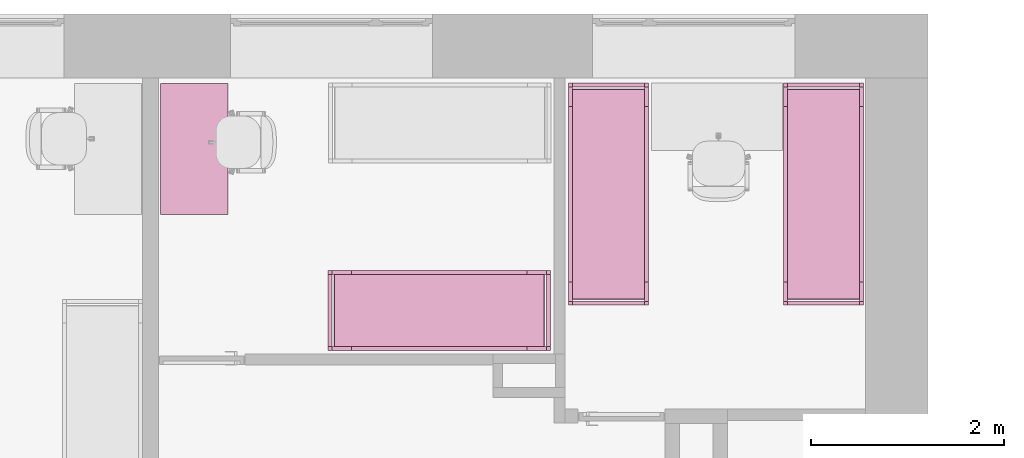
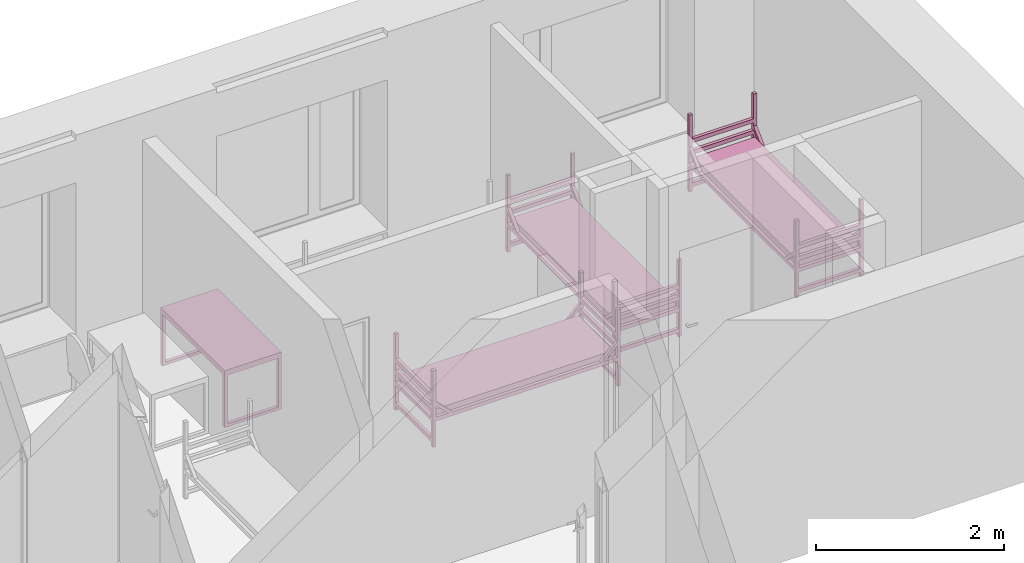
# One storey, part 44 of 46: 4 furnishings.
"""IFC2X3 building model written with IfcOpenShell, lengths in millimetres."""

from ifc_helpers import new_model, entity, si_unit, converted_unit, derived_unit, direction, frame, frame_2d, origin, place, context, subcontext, project, spatial, polyline, circle_curve, parameter, trimmed, segment, composite_curve, rectangle, outline, extrude, faceted_brep, source, transform, mapped, material, material_list, type_object, type_shapes, element, save


model = new_model("IFC2X3")

# Units and contexts
model_context = context("Model", 3, precision=0.01, world=origin(), true_north=direction((6.12303176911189e-17, 1.0)))
body_context = subcontext(model_context, "Body", "Model", "MODEL_VIEW")
ifc_project = project(units=[si_unit("LENGTHUNIT", "METRE", prefix="MILLI"), si_unit("AREAUNIT", "SQUARE_METRE"), si_unit("VOLUMEUNIT", "CUBIC_METRE"), converted_unit("PLANEANGLEUNIT", "DEGREE", entity("IfcRatioMeasure", 0.0174532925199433), si_unit("PLANEANGLEUNIT", "RADIAN"), dimensions=[0, 0, 0, 0, 0, 0, 0]), si_unit("MASSUNIT", "GRAM", prefix="KILO"), derived_unit("MASSDENSITYUNIT", [(si_unit("MASSUNIT", "GRAM", prefix="KILO"), 1), (si_unit("LENGTHUNIT", "METRE"), -3)]), si_unit("TIMEUNIT", "SECOND"), si_unit("FREQUENCYUNIT", "HERTZ"), si_unit("THERMODYNAMICTEMPERATUREUNIT", "DEGREE_CELSIUS"), derived_unit("THERMALTRANSMITTANCEUNIT", [(si_unit("MASSUNIT", "GRAM", prefix="KILO"), 1), (si_unit("THERMODYNAMICTEMPERATUREUNIT", "KELVIN"), -1), (si_unit("TIMEUNIT", "SECOND"), -3)]), derived_unit("VOLUMETRICFLOWRATEUNIT", [(si_unit("LENGTHUNIT", "METRE"), 3), (si_unit("TIMEUNIT", "SECOND"), -1)]), si_unit("ELECTRICCURRENTUNIT", "AMPERE"), si_unit("ELECTRICVOLTAGEUNIT", "VOLT"), si_unit("POWERUNIT", "WATT"), si_unit("FORCEUNIT", "NEWTON", prefix="KILO"), si_unit("ILLUMINANCEUNIT", "LUX"), si_unit("LUMINOUSFLUXUNIT", "LUMEN"), si_unit("LUMINOUSINTENSITYUNIT", "CANDELA"), derived_unit("USERDEFINED", [(si_unit("MASSUNIT", "GRAM", prefix="KILO"), -1), (si_unit("LENGTHUNIT", "METRE"), -2), (si_unit("TIMEUNIT", "SECOND"), 3), (si_unit("LUMINOUSFLUXUNIT", "LUMEN"), 1)]), derived_unit("LINEARVELOCITYUNIT", [(si_unit("LENGTHUNIT", "METRE"), 1), (si_unit("TIMEUNIT", "SECOND"), -1)]), si_unit("PRESSUREUNIT", "PASCAL"), derived_unit("USERDEFINED", [(si_unit("LENGTHUNIT", "METRE"), -2), (si_unit("MASSUNIT", "GRAM", prefix="KILO"), 1), (si_unit("TIMEUNIT", "SECOND"), -2)]), derived_unit("LINEARFORCEUNIT", [(si_unit("MASSUNIT", "GRAM", prefix="KILO"), 1), (si_unit("LENGTHUNIT", "METRE"), 1), (si_unit("TIMEUNIT", "SECOND"), -2), (si_unit("LENGTHUNIT", "METRE"), -1)]), derived_unit("PLANARFORCEUNIT", [(si_unit("MASSUNIT", "GRAM", prefix="KILO"), 1), (si_unit("LENGTHUNIT", "METRE"), 1), (si_unit("TIMEUNIT", "SECOND"), -2), (si_unit("LENGTHUNIT", "METRE"), -2)])], contexts=[model_context])

# Site, building, storey, space
site_placement = place(None, origin())
site = spatial("IfcSite", under=ifc_project, at=site_placement, Name="Default", CompositionType="ELEMENT")
building_placement = place(site_placement, origin())
building = spatial("IfcBuilding", under=site, at=building_placement, Name="SMA ARH", CompositionType="ELEMENT")
storey_placement = place(building_placement, origin())
storey = spatial("IfcBuildingStorey", under=building, at=storey_placement, Name="1 Korrus", CompositionType="ELEMENT", Elevation=0.0)
space_1_placement = place(storey_placement, origin())
space_1 = spatial("IfcSpace", under=storey, at=space_1_placement, Name="1-31", CompositionType="ELEMENT", InteriorOrExteriorSpace="INTERNAL")

# Furnishing
ifc_material_1 = material(Name="Madrats")
furniture_type_1 = type_object("IfcFurnitureType", Name="Kasarmu voodi ühekordne 2308x830:Kasarmu voodi ühekordne 2308x830", material=ifc_material_1)
shared_shape_1 = source(origin(), body_context, "Body", "SweptSolid", [
    extrude(rectangle(XDim=39.9999999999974, YDim=750.000000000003, at=frame_2d((-1.35003119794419e-13, -2.8421709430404e-14), x_axis=(1.0, 0.0))), frame((1.68638457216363, -1226.7969571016, 55.0), z_axis=(0.0, 0.0, 1.0), x_axis=(0.0, -1.0, 0.0)), (0.0, 0.0, 1.0), 49.9999999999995),
    extrude(rectangle(XDim=39.9999999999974, YDim=750.000000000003, at=frame_2d((-1.35003119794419e-13, -2.8421709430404e-14), x_axis=(1.0, 0.0))), frame((1.68638457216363, -1226.7969571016, 325.0), z_axis=(0.0, 0.0, 1.0), x_axis=(0.0, -1.0, 0.0)), (0.0, 0.0, 1.0), 49.9999999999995),
    extrude(rectangle(XDim=39.9999999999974, YDim=750.000000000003, at=frame_2d((-1.35003119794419e-13, -2.8421709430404e-14), x_axis=(1.0, 0.0))), frame((1.68638457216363, -1226.7969571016, 475.0), z_axis=(0.0, 0.0, 1.0), x_axis=(0.0, -1.0, 0.0)), (0.0, 0.0, 1.0), 49.9999999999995),
    extrude(rectangle(XDim=39.9999999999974, YDim=750.000000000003, at=frame_2d((-1.35003119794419e-13, -2.8421709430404e-14), x_axis=(1.0, 0.0))), frame((1.68638457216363, -1226.7969571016, 625.0), z_axis=(0.0, 0.0, 1.0), x_axis=(0.0, -1.0, 0.0)), (0.0, 0.0, 1.0), 50.0000000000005),
    extrude(rectangle(XDim=39.9999999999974, YDim=750.000000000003, at=frame_2d((1.35003119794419e-13, -2.8421709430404e-14), x_axis=(1.0, 0.0))), frame((1.68638457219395, 1041.2030428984, 55.0), z_axis=(0.0, 0.0, 1.0), x_axis=(0.0, -1.0, 0.0)), (0.0, 0.0, 1.0), 50.0000000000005),
    extrude(rectangle(XDim=39.9999999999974, YDim=750.000000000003, at=frame_2d((1.35003119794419e-13, -2.8421709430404e-14), x_axis=(1.0, 0.0))), frame((1.68638457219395, 1041.2030428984, 325.0), z_axis=(0.0, 0.0, 1.0), x_axis=(0.0, -1.0, 0.0)), (0.0, 0.0, 1.0), 50.0000000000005),
    extrude(rectangle(XDim=39.9999999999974, YDim=750.000000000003, at=frame_2d((1.35003119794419e-13, -2.8421709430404e-14), x_axis=(1.0, 0.0))), frame((1.68638457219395, 1041.2030428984, 475.0), z_axis=(0.0, 0.0, 1.0), x_axis=(0.0, -1.0, 0.0)), (0.0, 0.0, 1.0), 50.0000000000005),
    extrude(rectangle(XDim=39.9999999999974, YDim=750.000000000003, at=frame_2d((1.35003119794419e-13, -2.8421709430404e-14), x_axis=(1.0, 0.0))), frame((1.68638457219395, 1041.2030428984, 625.0), z_axis=(0.0, 0.0, 1.0), x_axis=(0.0, -1.0, 0.0)), (0.0, 0.0, 1.0), 49.9999999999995),
    extrude(outline(composite_curve([segment(trimmed(circle_curve(frame_2d((1085.0, -40.0), x_axis=(1.0, 0.0)), 10.0), [parameter(270.0)], [parameter(0.0)], True, "PARAMETER"), True, "CONTINUOUS"), segment(polyline([(1095.0, -40.0), (1095.0, 40.0)]), True, "CONTINUOUS"), segment(trimmed(circle_curve(frame_2d((1085.0, 40.0), x_axis=(1.0, 0.0)), 10.0), [parameter(0.0)], [parameter(90.0000000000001)], True, "PARAMETER"), True, "CONTINUOUS"), segment(polyline([(1085.0, 50.0), (-1085.0, 50.0)]), True, "CONTINUOUS"), segment(trimmed(circle_curve(frame_2d((-1085.0, 40.0), x_axis=(1.0, 0.0)), 10.0), [parameter(90.0000000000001)], [parameter(180.0)], True, "PARAMETER"), True, "CONTINUOUS"), segment(polyline([(-1095.0, 40.0), (-1095.0, -40.0)]), True, "CONTINUOUS"), segment(trimmed(circle_curve(frame_2d((-1085.0, -40.0), x_axis=(1.0, 0.0)), 10.0), [parameter(180.0)], [parameter(270.0)], True, "PARAMETER"), True, "CONTINUOUS"), segment(polyline([(-1085.0, -50.0), (1085.0, -50.0)]), True, "CONTINUOUS")], self_intersect=False)), frame((-373.313615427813, -92.7969571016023, 405.0), z_axis=(1.0, 0.0, 0.0), x_axis=(0.0, -1.0, 0.0)), (0.0, 0.0, 1.0), 750.000000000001),
    extrude(outline(polyline([(-1114.0, -100.0), (1114.0, -100.0), (1114.0, -50.0), (961.59199141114, -50.0), (1114.0, 100.0), (1114.0, 150.0), (910.789321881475, -50.0), (-910.789321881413, -50.0), (-1114.0, 150.0), (-1114.0, 100.0), (-961.591991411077, -50.0), (-1114.0, -50.0), (-1114.0, -100.0)])), frame((-413.313615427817, -92.7969571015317, 430.0), z_axis=(1.0, 0.0, 0.0), x_axis=(0.0, 1.0, 0.0)), (0.0, 0.0, 1.0), 39.9999999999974),
    extrude(outline(polyline([(-1114.0, -100.0), (1114.0, -100.0), (1114.0, -50.0), (961.591991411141, -50.0), (1114.0, 100.0), (1114.0, 150.0), (910.789321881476, -50.0), (-910.789321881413, -50.0), (-1114.0, 150.0), (-1114.0, 100.0), (-961.591991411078, -50.0), (-1114.0, -50.0), (-1114.0, -100.0)])), frame((376.686384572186, -92.796957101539, 430.0), z_axis=(1.0, 0.0, 0.0), x_axis=(0.0, 1.0, 0.0)), (0.0, 0.0, 1.0), 39.9999999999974),
    extrude(rectangle(XDim=39.9999999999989, YDim=39.9999999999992, at=frame_2d((-6.75015598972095e-14, 0.0), x_axis=(1.0, 0.0))), frame((396.686384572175, -1226.79695710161, 0.0), z_axis=(0.0, 0.0, 1.0), x_axis=(0.0, 1.0, 0.0)), (0.0, 0.0, 1.0), 995.0),
    extrude(rectangle(XDim=39.9999999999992, YDim=39.9999999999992, at=frame_2d((-1.35003119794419e-13, 0.0), x_axis=(1.0, 0.0))), frame((396.686384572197, 1041.20304289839, 0.0), z_axis=(0.0, 0.0, 1.0), x_axis=(0.0, 1.0, 0.0)), (0.0, 0.0, 1.0), 995.0),
    extrude(rectangle(XDim=40.0000000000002, YDim=39.9999999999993, at=frame_2d((-1.35003119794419e-13, 0.0), x_axis=(1.0, 0.0))), frame((-393.313615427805, 1041.2030428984, 0.0), z_axis=(0.0, 0.0, 1.0), x_axis=(0.0, 1.0, 0.0)), (0.0, 0.0, 1.0), 995.0),
    extrude(rectangle(XDim=39.9999999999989, YDim=39.9999999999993, at=frame_2d((-6.75015598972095e-14, 0.0), x_axis=(1.0, 0.0))), frame((-393.313615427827, -1226.7969571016, 0.0), z_axis=(0.0, 0.0, 1.0), x_axis=(0.0, 1.0, 0.0)), (0.0, 0.0, 1.0), 995.0),
])
type_shapes(furniture_type_1, [shared_shape_1])
furnishing_1_placement = place(space_1_placement, frame((33794.2030428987, 10081.3136154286, 0.0), z_axis=(0.0, 0.0, 1.0), x_axis=(0.0, 1.0, 0.0)))
element("IfcFurnishingElement", 1, at=furnishing_1_placement, inside=space_1, type_object=furniture_type_1, material=ifc_material_1, Name="Kasarmu voodi ühekordne 2308x830:Kasarmu voodi ühekordne 2308x830", ObjectType="Kasarmu voodi ühekordne 2308x830:Kasarmu voodi ühekordne 2308x830", context=body_context, shape_type="MappedRepresentation", body=[
    mapped(shared_shape_1, transform((0.0, 0.0, 0.0), scale=1.0)),
])

# Space
space_2_placement = place(storey_placement, origin())
space_2 = spatial("IfcSpace", under=storey, at=space_2_placement, Name="1-33", CompositionType="ELEMENT", InteriorOrExteriorSpace="INTERNAL")

# Furnishings
for number, where, z_axis, x_axis, name in (
    (2, (35647.2939213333, 11199.8894274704, 0.0), (0.0, 0.0, 1.0), (-1.0, 0.0, 0.0), "Kasarmu voodi ühekordne 2308x830:Kasarmu voodi ühekordne 2308x830"),
    (3, (37880.0, 11199.8894274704, 0.0), (0.0, 0.0, 1.0), (-1.0, 0.0, 0.0), "Kasarmu voodi ühekordne 2308x830:Kasarmu voodi ühekordne 2308x830"),
):
    element("IfcFurnishingElement", number, at=place(space_2_placement, frame(where, z_axis=z_axis, x_axis=x_axis)), inside=space_2, type_object=furniture_type_1, material=ifc_material_1, Name=name, ObjectType="Kasarmu voodi ühekordne 2308x830:Kasarmu voodi ühekordne 2308x830", context=body_context, shape_type="MappedRepresentation", body=[
        mapped(shared_shape_1, transform((0.0, 0.0, 0.0), scale=1.0)),
    ])
ifc_material_2 = material(Name="<Unnamed>")
ifc_material_list = material_list([ifc_material_2, ifc_material_2])
furniture_type_2 = type_object("IfcFurnitureType", Name="kirjutuslaud 1360x700mm:kirjutuslaud 1360x700mm", material=ifc_material_list)
shared_shape_2 = source(origin(), body_context, "Body", "Brep", [
    faceted_brep([(680.0, -350.0, 720.0), (680.0, 350.0, 720.0), (680.0, 350.0, 750.0), (680.0, -350.0, 750.0), (-680.0, -350.0, 720.0), (-680.0, -350.0, 750.0), (-680.0, 350.0, 750.0), (-680.0, 350.0, 720.0)], [[[0, 1, 2, 3]], [[4, 5, 6, 7]], [[1, 0, 4, 7]], [[2, 1, 7, 6]], [[3, 2, 6, 5]], [[0, 3, 5, 4]]]),
    faceted_brep([(-640.0, -310.0, 680.0), (-640.0, 310.0, 680.0), (-640.0, 310.0, 720.0), (-640.0, -310.0, 720.0), (-680.0, -350.0, 720.0), (-680.0, 350.0, 720.0), (-680.0, 350.0, 10.0), (-680.0, -350.0, 10.0), (-680.0, 310.0, 680.0), (-680.0, -310.0, 680.0), (-680.0, -310.0, 50.0), (-680.0, 310.0, 50.0), (-640.0, -350.0, 10.0), (-640.0, -350.0, 680.0), (640.0, -350.0, 680.0), (640.0, -350.0, 10.0), (680.0, -350.0, 10.0), (680.0, -350.0, 720.0), (-640.0, 350.0, 10.0), (680.0, 350.0, 720.0), (680.0, 350.0, 10.0), (640.0, 350.0, 10.0), (640.0, 350.0, 680.0), (-640.0, 350.0, 680.0), (640.0, 310.0, 720.0), (640.0, -310.0, 720.0), (-640.0, 310.0, 50.0), (-640.0, -310.0, 50.0), (640.0, -310.0, 680.0), (640.0, 310.0, 680.0), (680.0, 310.0, 680.0), (680.0, 310.0, 50.0), (680.0, -310.0, 50.0), (680.0, -310.0, 680.0), (640.0, -310.0, 50.0), (640.0, 310.0, 50.0)], [[[0, 1, 2, 3]], [[4, 5, 6, 7], [8, 9, 10, 11]], [[4, 7, 12, 13, 14, 15, 16, 17]], [[18, 12, 7, 6]], [[6, 5, 19, 20, 21, 22, 23, 18]], [[19, 5, 4, 17], [2, 24, 25, 3]], [[26, 1, 8, 11]], [[27, 26, 11, 10]], [[0, 27, 10, 9]], [[1, 0, 9, 8]], [[14, 13, 0, 28]], [[24, 2, 1, 29]], [[3, 25, 28, 0]], [[17, 16, 20, 19], [30, 31, 32, 33]], [[21, 15, 14, 28, 34, 35, 29, 22]], [[20, 16, 15, 21]], [[31, 30, 29, 35]], [[32, 31, 35, 34]], [[33, 32, 34, 28]], [[30, 33, 28, 29]], [[29, 28, 25, 24]], [[29, 1, 23, 22]], [[12, 18, 23, 1, 26, 27, 0, 13]]]),
    faceted_brep([(-663.729456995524, -270.466136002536, 0.0), (-659.847171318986, -269.955023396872, 0.0), (-655.964885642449, -270.466136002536, 0.0), (-652.347171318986, -271.964642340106, 0.0), (-649.240569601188, -274.348421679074, 0.0), (-646.85679026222, -277.455023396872, 0.0), (-645.35828392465, -281.072737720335, 0.0), (-644.847171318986, -284.955023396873, 0.0), (-645.35828392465, -288.83730907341, 0.0), (-646.85679026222, -292.455023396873, 0.0), (-649.240569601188, -295.561625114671, 0.0), (-652.347171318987, -297.945404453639, 0.0), (-655.964885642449, -299.443910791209, 0.0), (-659.847171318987, -299.955023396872, 0.0), (-663.729456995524, -299.443910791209, 0.0), (-667.347171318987, -297.945404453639, 0.0), (-670.453773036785, -295.561625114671, 0.0), (-672.837552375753, -292.455023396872, 0.0), (-674.336058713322, -288.83730907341, 0.0), (-674.847171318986, -284.955023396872, 0.0), (-674.336058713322, -281.072737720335, 0.0), (-672.837552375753, -277.455023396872, 0.0), (-670.453773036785, -274.348421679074, 0.0), (-667.347171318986, -271.964642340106, 0.0), (-655.964885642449, -299.443910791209, 10.0), (-652.347171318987, -297.945404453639, 10.0), (-649.240569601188, -295.561625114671, 10.0), (-646.85679026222, -292.455023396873, 10.0), (-645.35828392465, -288.83730907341, 10.0), (-644.847171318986, -284.955023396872, 10.0), (-645.35828392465, -281.072737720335, 10.0), (-646.85679026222, -277.455023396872, 10.0), (-649.240569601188, -274.348421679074, 10.0), (-652.347171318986, -271.964642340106, 10.0), (-655.964885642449, -270.466136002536, 10.0), (-659.847171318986, -269.955023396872, 10.0), (-663.729456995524, -270.466136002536, 10.0), (-667.347171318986, -271.964642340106, 10.0), (-670.453773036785, -274.348421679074, 10.0), (-672.837552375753, -277.455023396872, 10.0), (-674.336058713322, -281.072737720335, 10.0), (-674.847171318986, -284.955023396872, 10.0), (-674.336058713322, -288.83730907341, 10.0), (-672.837552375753, -292.455023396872, 10.0), (-670.453773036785, -295.561625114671, 10.0), (-667.347171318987, -297.945404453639, 10.0), (-663.729456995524, -299.443910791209, 10.0), (-659.847171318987, -299.955023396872, 10.0)], [[[0, 1, 2, 3, 4, 5, 6, 7, 8, 9, 10, 11, 12, 13, 14, 15, 16, 17, 18, 19, 20, 21, 22, 23]], [[24, 25, 26, 27, 28, 29, 30, 31, 32, 33, 34, 35, 36, 37, 38, 39, 40, 41, 42, 43, 44, 45, 46, 47]], [[18, 42, 41, 19]], [[17, 43, 42, 18]], [[45, 44, 16, 15]], [[17, 16, 44, 43]], [[46, 45, 15, 14]], [[47, 46, 14, 13]], [[12, 24, 47, 13]], [[11, 25, 24, 12]], [[27, 26, 10, 9]], [[11, 10, 26, 25]], [[28, 27, 9, 8]], [[29, 28, 8, 7]], [[6, 30, 29, 7]], [[5, 31, 30, 6]], [[33, 32, 4, 3]], [[5, 4, 32, 31]], [[34, 33, 3, 2]], [[35, 34, 2, 1]], [[0, 36, 35, 1]], [[23, 37, 36, 0]], [[39, 38, 22, 21]], [[23, 22, 38, 37]], [[40, 39, 21, 20]], [[41, 40, 20, 19]]]),
    faceted_brep([(-655.964885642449, 270.466136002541, 10.0), (-652.347171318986, 271.964642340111, 10.0), (-649.240569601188, 274.348421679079, 10.0), (-646.85679026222, 277.455023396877, 10.0), (-645.35828392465, 281.07273772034, 10.0), (-644.847171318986, 284.955023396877, 10.0), (-645.35828392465, 288.837309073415, 10.0), (-646.85679026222, 292.455023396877, 10.0), (-649.240569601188, 295.561625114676, 10.0), (-652.347171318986, 297.945404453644, 10.0), (-655.964885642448, 299.443910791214, 10.0), (-659.847171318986, 299.955023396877, 10.0), (-663.729456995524, 299.443910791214, 10.0), (-667.347171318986, 297.945404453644, 10.0), (-670.453773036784, 295.561625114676, 10.0), (-672.837552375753, 292.455023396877, 10.0), (-674.336058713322, 288.837309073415, 10.0), (-674.847171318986, 284.955023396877, 10.0), (-674.336058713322, 281.07273772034, 10.0), (-672.837552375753, 277.455023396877, 10.0), (-670.453773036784, 274.348421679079, 10.0), (-667.347171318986, 271.964642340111, 10.0), (-663.729456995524, 270.466136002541, 10.0), (-659.847171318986, 269.955023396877, 10.0), (-655.964885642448, 299.443910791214, 0.0), (-652.347171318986, 297.945404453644, 0.0), (-649.240569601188, 295.561625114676, 0.0), (-646.85679026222, 292.455023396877, 0.0), (-645.35828392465, 288.837309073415, 0.0), (-644.847171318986, 284.955023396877, 0.0), (-645.35828392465, 281.07273772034, 0.0), (-646.85679026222, 277.455023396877, 0.0), (-649.240569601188, 274.348421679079, 0.0), (-652.347171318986, 271.964642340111, 0.0), (-655.964885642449, 270.466136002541, 0.0), (-659.847171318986, 269.955023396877, 0.0), (-663.729456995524, 270.466136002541, 0.0), (-667.347171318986, 271.964642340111, 0.0), (-670.453773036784, 274.348421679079, 0.0), (-672.837552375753, 277.455023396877, 0.0), (-674.336058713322, 281.07273772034, 0.0), (-674.847171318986, 284.955023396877, 0.0), (-674.336058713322, 288.837309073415, 0.0), (-672.837552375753, 292.455023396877, 0.0), (-670.453773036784, 295.561625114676, 0.0), (-667.347171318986, 297.945404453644, 0.0), (-663.729456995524, 299.443910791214, 0.0), (-659.847171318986, 299.955023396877, 0.0)], [[[0, 1, 2, 3, 4, 5, 6, 7, 8, 9, 10, 11, 12, 13, 14, 15, 16, 17, 18, 19, 20, 21, 22, 23]], [[24, 25, 26, 27, 28, 29, 30, 31, 32, 33, 34, 35, 36, 37, 38, 39, 40, 41, 42, 43, 44, 45, 46, 47]], [[40, 18, 17, 41]], [[39, 19, 18, 40]], [[21, 20, 38, 37]], [[39, 38, 20, 19]], [[22, 21, 37, 36]], [[23, 22, 36, 35]], [[34, 0, 23, 35]], [[33, 1, 0, 34]], [[3, 2, 32, 31]], [[33, 32, 2, 1]], [[4, 3, 31, 30]], [[5, 4, 30, 29]], [[28, 6, 5, 29]], [[27, 7, 6, 28]], [[9, 8, 26, 25]], [[27, 26, 8, 7]], [[10, 9, 25, 24]], [[11, 10, 24, 47]], [[46, 12, 11, 47]], [[45, 13, 12, 46]], [[15, 14, 44, 43]], [[45, 44, 14, 13]], [[16, 15, 43, 42]], [[17, 16, 42, 41]]]),
    faceted_brep([(656.270543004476, -270.466136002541, 0.0), (660.152828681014, -269.955023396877, 0.0), (664.035114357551, -270.466136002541, 0.0), (667.652828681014, -271.96464234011, 0.0), (670.759430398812, -274.348421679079, 0.0), (673.14320973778, -277.455023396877, 0.0), (674.64171607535, -281.072737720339, 0.0), (675.152828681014, -284.955023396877, 0.0), (674.64171607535, -288.837309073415, 0.0), (673.14320973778, -292.455023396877, 0.0), (670.759430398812, -295.561625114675, 0.0), (667.652828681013, -297.945404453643, 0.0), (664.035114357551, -299.443910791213, 0.0), (660.152828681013, -299.955023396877, 0.0), (656.270543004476, -299.443910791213, 0.0), (652.652828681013, -297.945404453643, 0.0), (649.546226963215, -295.561625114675, 0.0), (647.162447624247, -292.455023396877, 0.0), (645.663941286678, -288.837309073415, 0.0), (645.152828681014, -284.955023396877, 0.0), (645.663941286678, -281.072737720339, 0.0), (647.162447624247, -277.455023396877, 0.0), (649.546226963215, -274.348421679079, 0.0), (652.652828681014, -271.96464234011, 0.0), (664.035114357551, -299.443910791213, 10.0), (667.652828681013, -297.945404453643, 10.0), (670.759430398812, -295.561625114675, 10.0), (673.14320973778, -292.455023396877, 10.0), (674.64171607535, -288.837309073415, 10.0), (675.152828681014, -284.955023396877, 10.0), (674.64171607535, -281.072737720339, 10.0), (673.14320973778, -277.455023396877, 10.0), (670.759430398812, -274.348421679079, 10.0), (667.652828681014, -271.96464234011, 10.0), (664.035114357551, -270.466136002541, 10.0), (660.152828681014, -269.955023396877, 10.0), (656.270543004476, -270.466136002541, 10.0), (652.652828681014, -271.96464234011, 10.0), (649.546226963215, -274.348421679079, 10.0), (647.162447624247, -277.455023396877, 10.0), (645.663941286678, -281.072737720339, 10.0), (645.152828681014, -284.955023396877, 10.0), (645.663941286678, -288.837309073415, 10.0), (647.162447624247, -292.455023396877, 10.0), (649.546226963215, -295.561625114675, 10.0), (652.652828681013, -297.945404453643, 10.0), (656.270543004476, -299.443910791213, 10.0), (660.152828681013, -299.955023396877, 10.0)], [[[0, 1, 2, 3, 4, 5, 6, 7, 8, 9, 10, 11, 12, 13, 14, 15, 16, 17, 18, 19, 20, 21, 22, 23]], [[24, 25, 26, 27, 28, 29, 30, 31, 32, 33, 34, 35, 36, 37, 38, 39, 40, 41, 42, 43, 44, 45, 46, 47]], [[18, 42, 41, 19]], [[17, 43, 42, 18]], [[45, 44, 16, 15]], [[17, 16, 44, 43]], [[46, 45, 15, 14]], [[47, 46, 14, 13]], [[12, 24, 47, 13]], [[11, 25, 24, 12]], [[27, 26, 10, 9]], [[11, 10, 26, 25]], [[28, 27, 9, 8]], [[29, 28, 8, 7]], [[6, 30, 29, 7]], [[5, 31, 30, 6]], [[33, 32, 4, 3]], [[5, 4, 32, 31]], [[34, 33, 3, 2]], [[35, 34, 2, 1]], [[0, 36, 35, 1]], [[23, 37, 36, 0]], [[39, 38, 22, 21]], [[23, 22, 38, 37]], [[40, 39, 21, 20]], [[41, 40, 20, 19]]]),
    faceted_brep([(664.035114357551, 270.466136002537, 10.0), (667.652828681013, 271.964642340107, 10.0), (670.759430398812, 274.348421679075, 10.0), (673.14320973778, 277.455023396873, 10.0), (674.64171607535, 281.072737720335, 10.0), (675.152828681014, 284.955023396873, 10.0), (674.64171607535, 288.837309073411, 10.0), (673.14320973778, 292.455023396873, 10.0), (670.759430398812, 295.561625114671, 10.0), (667.652828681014, 297.94540445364, 10.0), (664.035114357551, 299.443910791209, 10.0), (660.152828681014, 299.955023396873, 10.0), (656.270543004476, 299.443910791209, 10.0), (652.652828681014, 297.94540445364, 10.0), (649.546226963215, 295.561625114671, 10.0), (647.162447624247, 292.455023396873, 10.0), (645.663941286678, 288.837309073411, 10.0), (645.152828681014, 284.955023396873, 10.0), (645.663941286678, 281.072737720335, 10.0), (647.162447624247, 277.455023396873, 10.0), (649.546226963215, 274.348421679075, 10.0), (652.652828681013, 271.964642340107, 10.0), (656.270543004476, 270.466136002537, 10.0), (660.152828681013, 269.955023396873, 10.0), (664.035114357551, 299.443910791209, 0.0), (667.652828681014, 297.94540445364, 0.0), (670.759430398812, 295.561625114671, 0.0), (673.14320973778, 292.455023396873, 0.0), (674.64171607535, 288.837309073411, 0.0), (675.152828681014, 284.955023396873, 0.0), (674.64171607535, 281.072737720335, 0.0), (673.14320973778, 277.455023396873, 0.0), (670.759430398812, 274.348421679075, 0.0), (667.652828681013, 271.964642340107, 0.0), (664.035114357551, 270.466136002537, 0.0), (660.152828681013, 269.955023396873, 0.0), (656.270543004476, 270.466136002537, 0.0), (652.652828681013, 271.964642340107, 0.0), (649.546226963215, 274.348421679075, 0.0), (647.162447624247, 277.455023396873, 0.0), (645.663941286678, 281.072737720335, 0.0), (645.152828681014, 284.955023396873, 0.0), (645.663941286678, 288.837309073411, 0.0), (647.162447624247, 292.455023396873, 0.0), (649.546226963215, 295.561625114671, 0.0), (652.652828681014, 297.94540445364, 0.0), (656.270543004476, 299.443910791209, 0.0), (660.152828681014, 299.955023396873, 0.0)], [[[0, 1, 2, 3, 4, 5, 6, 7, 8, 9, 10, 11, 12, 13, 14, 15, 16, 17, 18, 19, 20, 21, 22, 23]], [[24, 25, 26, 27, 28, 29, 30, 31, 32, 33, 34, 35, 36, 37, 38, 39, 40, 41, 42, 43, 44, 45, 46, 47]], [[40, 18, 17, 41]], [[39, 19, 18, 40]], [[21, 20, 38, 37]], [[39, 38, 20, 19]], [[22, 21, 37, 36]], [[23, 22, 36, 35]], [[34, 0, 23, 35]], [[33, 1, 0, 34]], [[3, 2, 32, 31]], [[33, 32, 2, 1]], [[4, 3, 31, 30]], [[5, 4, 30, 29]], [[28, 6, 5, 29]], [[27, 7, 6, 28]], [[9, 8, 26, 25]], [[27, 26, 8, 7]], [[10, 9, 25, 24]], [[11, 10, 24, 47]], [[46, 12, 11, 47]], [[45, 13, 12, 46]], [[15, 14, 44, 43]], [[45, 44, 14, 13]], [[16, 15, 43, 42]], [[17, 16, 42, 41]]]),
])
type_shapes(furniture_type_2, [shared_shape_2])
furnishing_2_placement = place(space_1_placement, frame((31341.0, 11760.0, 0.0), z_axis=(0.0, 0.0, 1.0), x_axis=(0.0, 1.0, 0.0)))
element("IfcFurnishingElement", 4, at=furnishing_2_placement, inside=space_1, type_object=furniture_type_2, Name="kirjutuslaud 1360x700mm:kirjutuslaud 1360x700mm", ObjectType="kirjutuslaud 1360x700mm:kirjutuslaud 1360x700mm", context=body_context, shape_type="MappedRepresentation", body=[
    mapped(shared_shape_2, transform((0.0, 0.0, 0.0), scale=1.0)),
])

save(model, "model.ifc")
